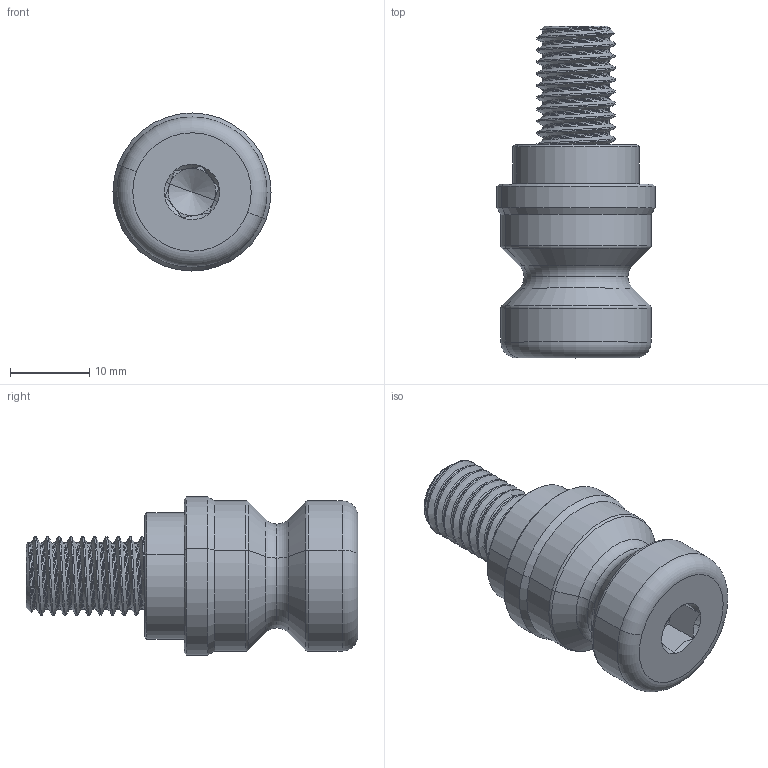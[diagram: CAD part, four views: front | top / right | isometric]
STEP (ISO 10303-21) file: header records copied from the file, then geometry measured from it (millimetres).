
FILE_DESCRIPTION((''),'2;1');
FILE_NAME('PS_20_ASM','2026-06-10T14:13:07',('Admin'),(''),'CREO PARAMETRIC BY PTC INC, 2025010','CREO PARAMETRIC BY PTC INC, 2025010','');
FILE_SCHEMA(('CONFIG_CONTROL_DESIGN'));
Length unit declared in the file: millimetre
Products named in the file (3): F000-24778A-2-SOLID1; F000-24778A-2-SOLID2; PS_20_ASM
Assembly tree (2 placements, depth 2):
  PS_20_ASM
    F000-24778A-2-SOLID1
    F000-24778A-2-SOLID2
Bounding box: 20 x 42 x 20 mm (x, y, z)
Volume: 7128.2 mm3; surface area: 3917.2 mm2
Topology: 2 solids, 2 shells, 107 faces, 265 edges, 162 vertices
Faces by surface type: cylinder 42, plane 30, cone 20, torus 10, bspline 5
Entity records: 22742 total; most frequent: CARTESIAN_POINT 20295, ORIENTED_EDGE 522, DIRECTION 447, EDGE_CURVE 261, AXIS2_PLACEMENT_3D 169, VERTEX_POINT 162, EDGE_LOOP 111, VECTOR 109
